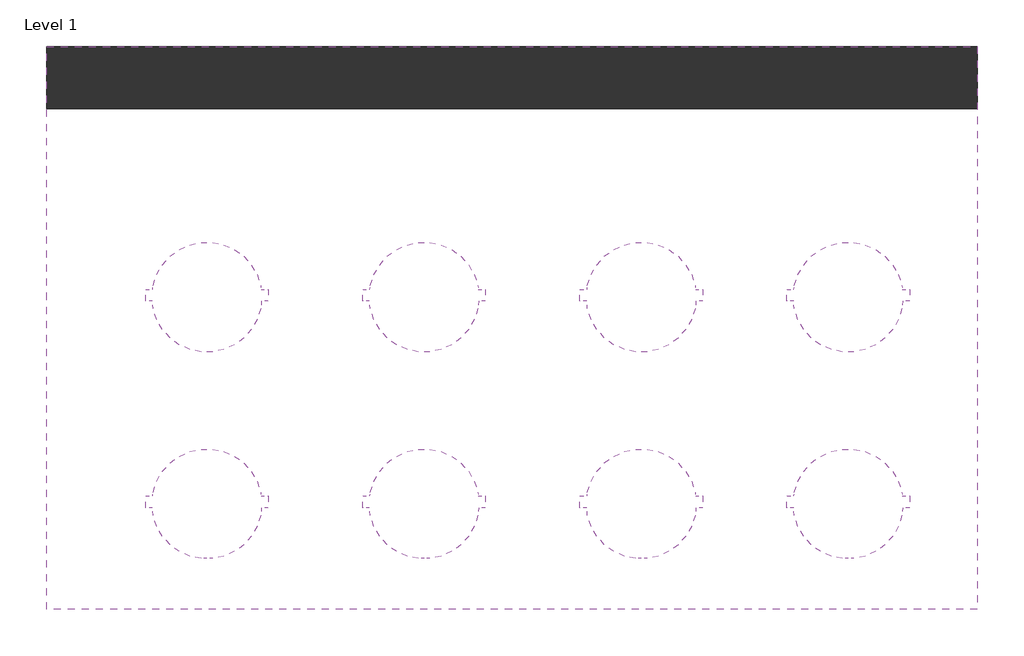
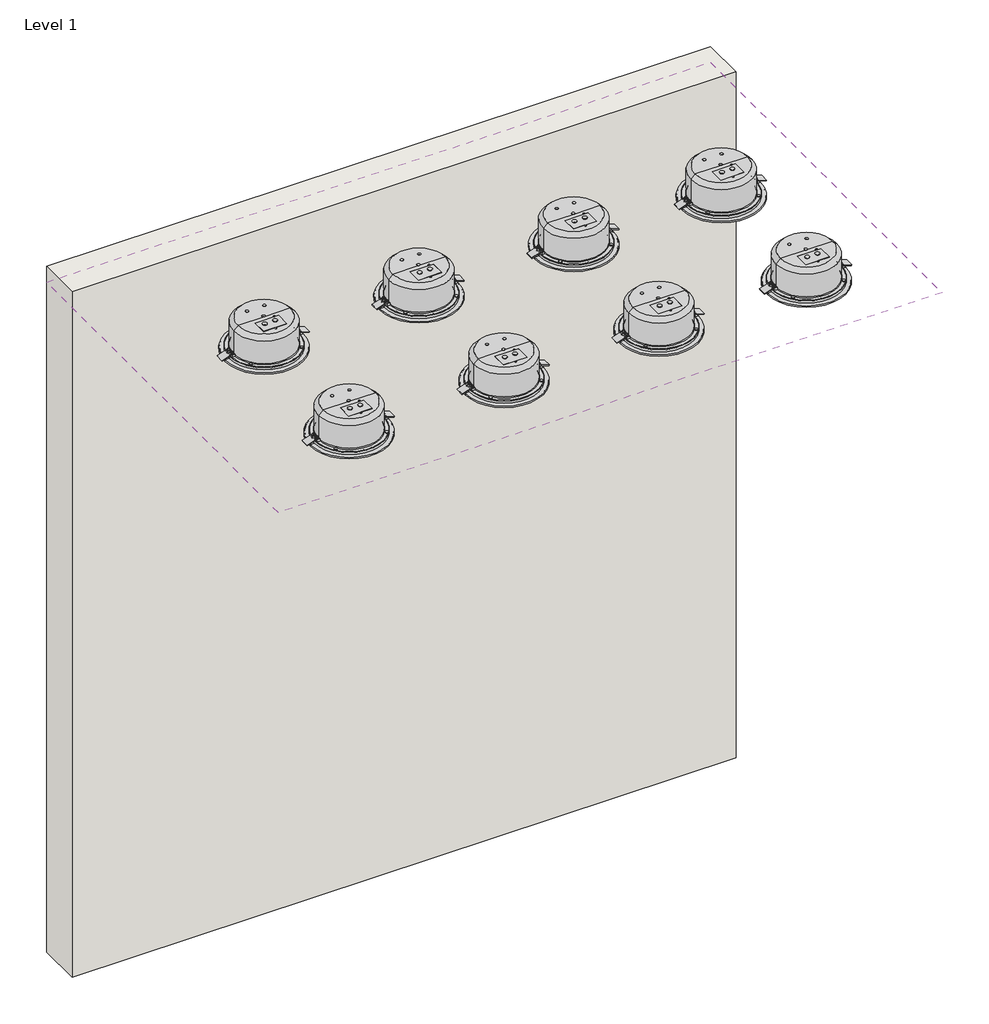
# One storey: 8 proxies, 1 covering, 1 wall.
"""IFC4 building model written with IfcOpenShell, lengths in millimetres."""

from ifc_helpers import new_model, si_unit, frame, origin, origin_with_axes, place, context, project, spatial, polyline, outline, extrude, transform, mapped, element, save
from components import communication_devices_1a25a5fd

model = new_model("IFC4")

# Units and contexts
model_context = context("Model", 3, world=origin())
ifc_project = project(units=[si_unit("LENGTHUNIT", "METRE", prefix="MILLI")], contexts=[model_context])

# Site, building, storey
site = spatial("IfcSite", under=ifc_project)
building = spatial("IfcBuilding", under=site)
storey = spatial("IfcBuildingStorey", under=building, Name="Level 1", Elevation=0.0)

# Proxies
placement = place(None, origin())
communication_devices_shape = communication_devices_1a25a5fd(model_context)
element("IfcBuildingElementProxy", 1, Name="221216 BIM Data_DL-SE20-200T-EN54 : DL-SE 20-200/T-EN54", ObjectType="221216 BIM Data_DL-SE20-200T-EN54 : DL-SE 20-200/T-EN54", at=placement, inside=storey, context=model_context, shape_type="MappedRepresentation", body=[
    mapped(communication_devices_shape, transform((2226.8973575, 1499.6266815, 2433.4), x_axis=(1.0, 0.0, 0.0), y_axis=(0.0, 1.0, 0.0), z_axis=(0.0, 0.0, 1.0))),
])
element("IfcBuildingElementProxy", 2, Name="221216 BIM Data_DL-SE20-200T-EN54 : DL-SE 20-200/T-EN54", ObjectType="221216 BIM Data_DL-SE20-200T-EN54 : DL-SE 20-200/T-EN54", at=placement, inside=storey, context=model_context, shape_type="MappedRepresentation", body=[
    mapped(communication_devices_shape, transform((2760.2973575, 1499.6266815, 2433.4), x_axis=(1.0, 0.0, 0.0), y_axis=(0.0, 1.0, 0.0), z_axis=(0.0, 0.0, 1.0))),
])
element("IfcBuildingElementProxy", 3, Name="221216 BIM Data_DL-SE20-200T-EN54 : DL-SE 20-200/T-EN54", ObjectType="221216 BIM Data_DL-SE20-200T-EN54 : DL-SE 20-200/T-EN54", at=placement, inside=storey, context=model_context, shape_type="MappedRepresentation", body=[
    mapped(communication_devices_shape, transform((3293.6973575, 1499.6266815, 2433.4), x_axis=(1.0, 0.0, 0.0), y_axis=(0.0, 1.0, 0.0), z_axis=(0.0, 0.0, 1.0))),
])
element("IfcBuildingElementProxy", 4, Name="221216 BIM Data_DL-SE20-200T-EN54 : DL-SE 20-200/T-EN54", ObjectType="221216 BIM Data_DL-SE20-200T-EN54 : DL-SE 20-200/T-EN54", at=placement, inside=storey, context=model_context, shape_type="MappedRepresentation", body=[
    mapped(communication_devices_shape, transform((3801.6973575, 1499.6266815, 2433.4), x_axis=(1.0, 0.0, 0.0), y_axis=(0.0, 1.0, 0.0), z_axis=(0.0, 0.0, 1.0))),
])
element("IfcBuildingElementProxy", 5, Name="221216 BIM Data_DL-SE20-200T-EN54 : DL-SE 20-200/T-EN54", ObjectType="221216 BIM Data_DL-SE20-200T-EN54 : DL-SE 20-200/T-EN54", at=placement, inside=storey, context=model_context, shape_type="MappedRepresentation", body=[
    mapped(communication_devices_shape, transform((2226.8973575, 991.6266815, 2433.4), x_axis=(1.0, 0.0, 0.0), y_axis=(0.0, 1.0, 0.0), z_axis=(0.0, 0.0, 1.0))),
])
element("IfcBuildingElementProxy", 6, Name="221216 BIM Data_DL-SE20-200T-EN54 : DL-SE 20-200/T-EN54", ObjectType="221216 BIM Data_DL-SE20-200T-EN54 : DL-SE 20-200/T-EN54", at=placement, inside=storey, context=model_context, shape_type="MappedRepresentation", body=[
    mapped(communication_devices_shape, transform((2760.2973575, 991.6266815, 2433.4), x_axis=(1.0, 0.0, 0.0), y_axis=(0.0, 1.0, 0.0), z_axis=(0.0, 0.0, 1.0))),
])
element("IfcBuildingElementProxy", 7, Name="221216 BIM Data_DL-SE20-200T-EN54 : DL-SE 20-200/T-EN54", ObjectType="221216 BIM Data_DL-SE20-200T-EN54 : DL-SE 20-200/T-EN54", at=placement, inside=storey, context=model_context, shape_type="MappedRepresentation", body=[
    mapped(communication_devices_shape, transform((3293.6973575, 991.6266815, 2433.4), x_axis=(1.0, 0.0, 0.0), y_axis=(0.0, 1.0, 0.0), z_axis=(0.0, 0.0, 1.0))),
])
element("IfcBuildingElementProxy", 8, Name="221216 BIM Data_DL-SE20-200T-EN54 : DL-SE 20-200/T-EN54", ObjectType="221216 BIM Data_DL-SE20-200T-EN54 : DL-SE 20-200/T-EN54", at=placement, inside=storey, context=model_context, shape_type="MappedRepresentation", body=[
    mapped(communication_devices_shape, transform((3801.6973575, 991.6266815, 2433.4), x_axis=(1.0, 0.0, 0.0), y_axis=(0.0, 1.0, 0.0), z_axis=(0.0, 0.0, 1.0))),
])

# Covering
element("IfcCovering", 9, ObjectType="2' x 4' ACT System", at=placement, inside=storey, context=model_context, shape_type="SweptSolid", body=[
    extrude(outline(polyline([(4119.1973575, 2115.5766815), (4119.1973575, 732.2741036), (1833.1973575, 732.2741036), (1833.1973575, 2115.5766815), (4119.1973575, 2115.5766815)])), frame((0.0, 0.0, 2438.4), z_axis=(0.0, 0.0, 1.0), x_axis=(1.0, 0.0, 0.0)), (0.0, 0.0, 1.0), 57.15),
])

# Wall
element("IfcWall", 10, ObjectType="Exterior - 6\" Generic", at=placement, inside=storey, context=model_context, shape_type="SweptSolid", body=[
    extrude(outline(polyline([(4119.1973575, 1963.1766815), (1833.1973575, 1963.1766815), (1833.1973575, 2115.5766815), (4119.1973575, 2115.5766815), (4119.1973575, 1963.1766815)])), origin_with_axes(), (0.0, 0.0, 1.0), 2495.55),
])

save(model, "model.ifc")
